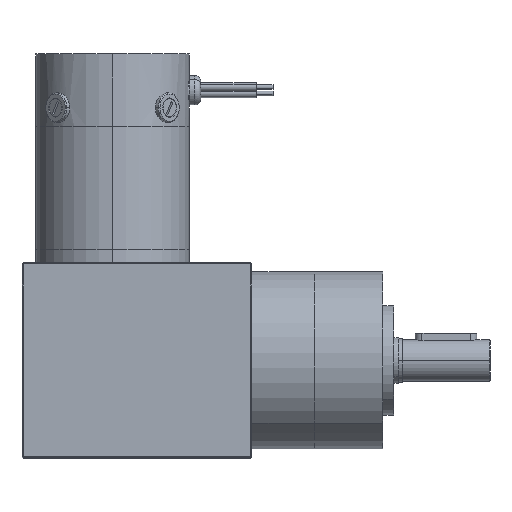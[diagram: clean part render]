
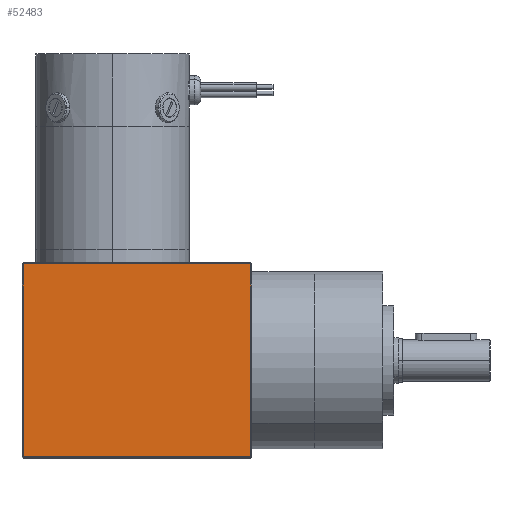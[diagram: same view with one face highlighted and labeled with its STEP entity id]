
A CAD part, top view. The second image highlights one B-rep face of the part: STEP entity #52483.
In plain terms, the highlighted planar face has unit normal (0, 0, 1).
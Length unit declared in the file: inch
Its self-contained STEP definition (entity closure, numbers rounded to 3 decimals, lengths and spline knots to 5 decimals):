
#3364 = CARTESIAN_POINT ( 'NONE',  ( 3.72437, 0.36216, 4.3302 ) ) ;
#4614 = DIRECTION ( 'NONE',  ( 0., -1., 0. ) ) ;
#8539 = EDGE_CURVE ( 'NONE', #45739, #30976, #27527, .T. ) ;
#13931 = ORIENTED_EDGE ( 'NONE', *, *, #39377, .T. ) ;
#14556 = EDGE_CURVE ( 'NONE', #30976, #18485, #27842, .T. ) ;
#14929 = CARTESIAN_POINT ( 'NONE',  ( 3.70437, 3.82216, 4.3302 ) ) ;
#15067 = VECTOR ( 'NONE', #4614, 39.37008 ) ;
#16919 = EDGE_LOOP ( 'NONE', ( #13931, #48456, #49106, #23875 ) ) ;
#18197 = DIRECTION ( 'NONE',  ( 1., 0., 0. ) ) ;
#18485 = VERTEX_POINT ( 'NONE', #3364 ) ;
#19472 = DIRECTION ( 'NONE',  ( 0., 1., 0. ) ) ;
#20170 = VERTEX_POINT ( 'NONE', #37743 ) ;
#21539 = DIRECTION ( 'NONE',  ( 1., 0., 0. ) ) ;
#23875 = ORIENTED_EDGE ( 'NONE', *, *, #14556, .T. ) ;
#26726 = DIRECTION ( 'NONE',  ( 0., 0., 1. ) ) ;
#26906 = DIRECTION ( 'NONE',  ( -1., 0., 0. ) ) ;
#27527 = LINE ( 'NONE', #14929, #38439 ) ;
#27842 = LINE ( 'NONE', #28161, #15067 ) ;
#28161 = CARTESIAN_POINT ( 'NONE',  ( 3.72437, 0.34216, 4.3302 ) ) ;
#30447 = CARTESIAN_POINT ( 'NONE',  ( 7.82937, 0.36216, 4.3302 ) ) ;
#30976 = VERTEX_POINT ( 'NONE', #49365 ) ;
#30998 = VECTOR ( 'NONE', #19472, 39.37008 ) ;
#33052 = FACE_OUTER_BOUND ( 'NONE', #16919, .T. ) ;
#36591 = VECTOR ( 'NONE', #21539, 39.37008 ) ;
#37743 = CARTESIAN_POINT ( 'NONE',  ( 7.80937, 0.36216, 4.3302 ) ) ;
#38439 = VECTOR ( 'NONE', #26906, 39.37008 ) ;
#39197 = LINE ( 'NONE', #30447, #36591 ) ;
#39377 = EDGE_CURVE ( 'NONE', #18485, #20170, #39197, .T. ) ;
#42597 = CARTESIAN_POINT ( 'NONE',  ( 7.80937, 3.82216, 4.3302 ) ) ;
#44008 = CARTESIAN_POINT ( 'NONE',  ( 7.80937, 3.84216, 4.3302 ) ) ;
#45739 = VERTEX_POINT ( 'NONE', #42597 ) ;
#45940 = EDGE_CURVE ( 'NONE', #20170, #45739, #52901, .T. ) ;
#47528 = CARTESIAN_POINT ( 'NONE',  ( 5.76687, 2.09216, 4.3302 ) ) ;
#48456 = ORIENTED_EDGE ( 'NONE', *, *, #45940, .T. ) ;
#49106 = ORIENTED_EDGE ( 'NONE', *, *, #8539, .T. ) ;
#49365 = CARTESIAN_POINT ( 'NONE',  ( 3.72437, 3.82216, 4.3302 ) ) ;
#51344 = PLANE ( 'NONE',  #51356 ) ;
#51356 = AXIS2_PLACEMENT_3D ( 'NONE', #47528, #26726, #18197 ) ;
#52483 = ADVANCED_FACE ( 'NONE', ( #33052 ), #51344, .T. ) ;
#52901 = LINE ( 'NONE', #44008, #30998 ) ;
